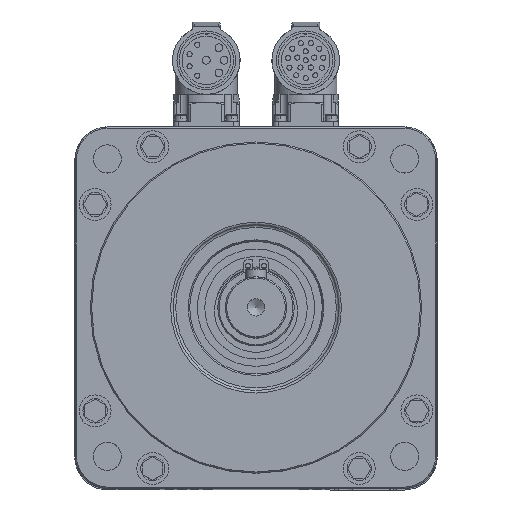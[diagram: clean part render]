
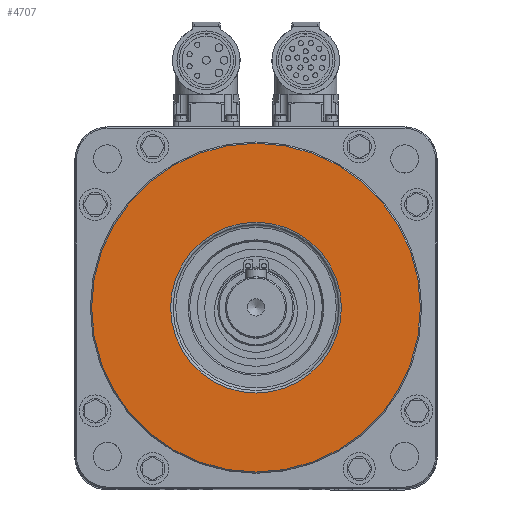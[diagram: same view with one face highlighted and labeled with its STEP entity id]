
A CAD part, top view. The second image highlights one B-rep face of the part: STEP entity #4707.
In plain terms, the highlighted planar face has unit normal (0, 0, 1) as drawn and (1, 0, 0) by its records, which use the part's own axes.
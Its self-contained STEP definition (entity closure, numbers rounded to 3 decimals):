
#4707 = ADVANCED_FACE( '', ( #9617, #9618 ), #9619, .F. );
#9617 = FACE_OUTER_BOUND( '', #19768, .T. );
#9618 = FACE_BOUND( '', #19769, .T. );
#9619 = PLANE( '', #19770 );
#19768 = EDGE_LOOP( '', ( #34685 ) );
#19769 = EDGE_LOOP( '', ( #34686 ) );
#19770 = AXIS2_PLACEMENT_3D( '', #34687, #34688, #34689 );
#34685 = ORIENTED_EDGE( '', *, *, #43225, .T. );
#34686 = ORIENTED_EDGE( '', *, *, #40842, .T. );
#34687 = CARTESIAN_POINT( '', ( 16.5, 0., 0. ) );
#34688 = DIRECTION( '', ( -1., 0., 0. ) );
#34689 = DIRECTION( '', ( 0., -1., 0. ) );
#40842 = EDGE_CURVE( '', #50126, #50126, #50127, .T. );
#43225 = EDGE_CURVE( '', #53615, #53615, #53616, .F. );
#50126 = VERTEX_POINT( '', #63957 );
#50127 = CIRCLE( '', #63958, 33.5 );
#53615 = VERTEX_POINT( '', #74782 );
#53616 = CIRCLE( '', #74783, 64.5 );
#63957 = CARTESIAN_POINT( '', ( 16.5, -33.5, 0. ) );
#63958 = AXIS2_PLACEMENT_3D( '', #84719, #84720, #84721 );
#74782 = CARTESIAN_POINT( '', ( 16.5, -64.5, 0. ) );
#74783 = AXIS2_PLACEMENT_3D( '', #87644, #87645, #87646 );
#84719 = CARTESIAN_POINT( '', ( 16.5, 0., 0. ) );
#84720 = DIRECTION( '', ( -1., 0., 0. ) );
#84721 = DIRECTION( '', ( 0., -1., 0. ) );
#87644 = CARTESIAN_POINT( '', ( 16.5, 0., 0. ) );
#87645 = DIRECTION( '', ( -1., 0., 0. ) );
#87646 = DIRECTION( '', ( 0., -1., 0. ) );
